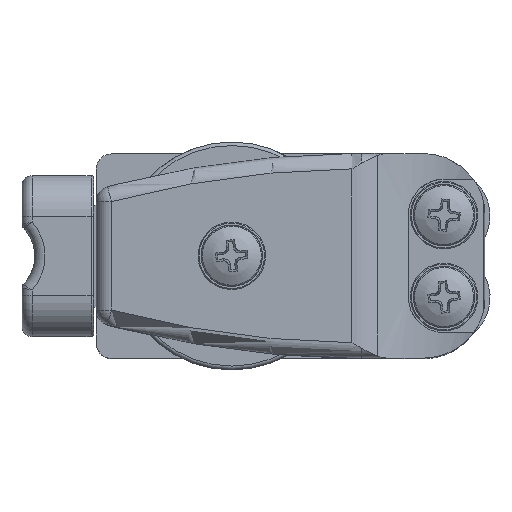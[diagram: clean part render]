
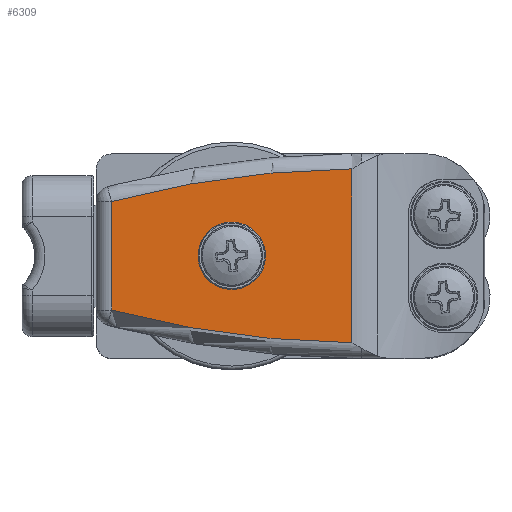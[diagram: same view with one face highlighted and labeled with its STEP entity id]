
A CAD part, top view. The second image highlights one B-rep face of the part: STEP entity #6309.
In plain terms, the highlighted planar face has unit normal (0, 0, 1).
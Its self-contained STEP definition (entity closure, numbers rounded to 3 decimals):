
#416=LINE('',#10907,#673);
#454=LINE('',#11168,#711);
#673=VECTOR('',#8728,10.);
#711=VECTOR('',#8842,10.);
#950=PLANE('',#7111);
#1232=FACE_BOUND('',#2313,.T.);
#1612=FACE_OUTER_BOUND('',#2312,.T.);
#2312=EDGE_LOOP('',(#5364,#5365,#5366,#5367));
#2313=EDGE_LOOP('',(#5368));
#2561=CIRCLE('',#6671,6.6);
#2747=CIRCLE('',#7041,190.);
#2761=CIRCLE('',#7058,190.);
#3080=VERTEX_POINT('',#10111);
#3271=VERTEX_POINT('',#10687);
#3272=VERTEX_POINT('',#10696);
#3278=VERTEX_POINT('',#10711);
#3281=VERTEX_POINT('',#10718);
#3749=EDGE_CURVE('',#3080,#3080,#2561,.T.);
#3941=EDGE_CURVE('',#3272,#3271,#2747,.T.);
#3956=EDGE_CURVE('',#3281,#3278,#2761,.T.);
#3995=EDGE_CURVE('',#3278,#3272,#416,.T.);
#4067=EDGE_CURVE('',#3281,#3271,#454,.T.);
#5364=ORIENTED_EDGE('',*,*,#4067,.F.);
#5365=ORIENTED_EDGE('',*,*,#3956,.T.);
#5366=ORIENTED_EDGE('',*,*,#3995,.T.);
#5367=ORIENTED_EDGE('',*,*,#3941,.T.);
#5368=ORIENTED_EDGE('',*,*,#3749,.T.);
#6309=ADVANCED_FACE('',(#1612,#1232),#950,.T.);
#6671=AXIS2_PLACEMENT_3D('',#10112,#7905,#7906);
#7041=AXIS2_PLACEMENT_3D('',#10697,#8648,#8649);
#7058=AXIS2_PLACEMENT_3D('',#10734,#8682,#8683);
#7111=AXIS2_PLACEMENT_3D('',#11167,#8840,#8841);
#7905=DIRECTION('center_axis',(0.,0.,
-1.));
#7906=DIRECTION('ref_axis',(0.91,0.414,0.));
#8648=DIRECTION('center_axis',(0.,0.,
1.));
#8649=DIRECTION('ref_axis',(1.,0.,0.));
#8682=DIRECTION('center_axis',(0.,0.,
1.));
#8683=DIRECTION('ref_axis',(1.,0.,0.));
#8728=DIRECTION('',(0.,-1.,0.));
#8840=DIRECTION('center_axis',(0.,0.,
1.));
#8841=DIRECTION('ref_axis',(1.,0.,0.));
#8842=DIRECTION('',(0.,-1.,0.));
#10111=CARTESIAN_POINT('',(-35.491,2.731,78.));
#10112=CARTESIAN_POINT('Origin',(-41.5,0.,
78.));
#10687=CARTESIAN_POINT('',(-18.,-16.99,78.));
#10696=CARTESIAN_POINT('',(-65.,-10.6,78.));
#10697=CARTESIAN_POINT('Origin',(-16.1,173.,78.));
#10711=CARTESIAN_POINT('',(-65.,10.6,78.));
#10718=CARTESIAN_POINT('',(-18.,16.99,78.));
#10734=CARTESIAN_POINT('Origin',(-16.1,-173.,78.));
#10907=CARTESIAN_POINT('',(-65.,0.,78.));
#11167=CARTESIAN_POINT('Origin',(-65.,0.,78.));
#11168=CARTESIAN_POINT('',(-18.,0.,78.));
